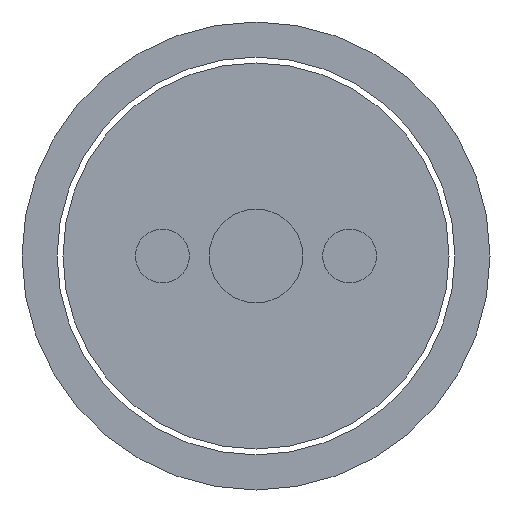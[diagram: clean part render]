
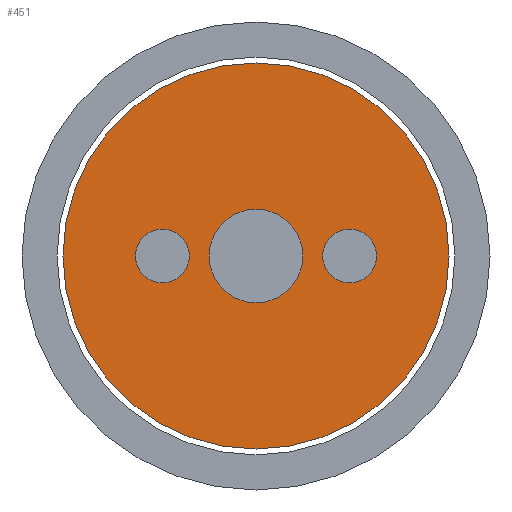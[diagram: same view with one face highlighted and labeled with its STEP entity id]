
A CAD part, front view. The second image highlights one B-rep face of the part: STEP entity #451.
In plain terms, the highlighted planar face has unit normal (0, -1, 0).
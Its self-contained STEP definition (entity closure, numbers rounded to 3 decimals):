
#366=CARTESIAN_POINT('',(0.,0.,0.));
#367=DIRECTION('',(0.,1.,0.));
#368=DIRECTION('',(1.,0.,0.));
#369=AXIS2_PLACEMENT_3D('',#366,#367,#368);
#371=CARTESIAN_POINT('',(0.,0.,0.));
#372=DIRECTION('',(0.,1.,0.));
#373=DIRECTION('',(-1.,0.,0.));
#374=AXIS2_PLACEMENT_3D('',#371,#372,#373);
#376=CARTESIAN_POINT('',(0.,0.,0.));
#377=DIRECTION('',(0.,-1.,0.));
#378=DIRECTION('',(1.,0.,0.));
#379=AXIS2_PLACEMENT_3D('',#376,#377,#378);
#381=CARTESIAN_POINT('',(0.,0.,0.));
#382=DIRECTION('',(0.,-1.,0.));
#383=DIRECTION('',(-1.,0.,0.));
#384=AXIS2_PLACEMENT_3D('',#381,#382,#383);
#386=CARTESIAN_POINT('',(4.,0.,0.));
#387=DIRECTION('',(0.,-1.,0.));
#388=DIRECTION('',(-1.,0.,0.));
#389=AXIS2_PLACEMENT_3D('',#386,#387,#388);
#391=CARTESIAN_POINT('',(4.,0.,0.));
#392=DIRECTION('',(0.,-1.,0.));
#393=DIRECTION('',(1.,0.,0.));
#394=AXIS2_PLACEMENT_3D('',#391,#392,#393);
#396=CARTESIAN_POINT('',(-4.,0.,0.));
#397=DIRECTION('',(0.,-1.,0.));
#398=DIRECTION('',(-1.,0.,0.));
#399=AXIS2_PLACEMENT_3D('',#396,#397,#398);
#401=CARTESIAN_POINT('',(-4.,0.,0.));
#402=DIRECTION('',(0.,-1.,0.));
#403=DIRECTION('',(1.,0.,0.));
#404=AXIS2_PLACEMENT_3D('',#401,#402,#403);
#406=CARTESIAN_POINT('',(8.25,0.,0.));
#407=CARTESIAN_POINT('',(-8.25,0.,0.));
#408=VERTEX_POINT('',#406);
#409=VERTEX_POINT('',#407);
#410=CARTESIAN_POINT('',(2.,0.,0.));
#411=CARTESIAN_POINT('',(-2.,0.,0.));
#412=VERTEX_POINT('',#410);
#413=VERTEX_POINT('',#411);
#414=CARTESIAN_POINT('',(2.85,0.,0.));
#415=CARTESIAN_POINT('',(5.15,0.,0.));
#416=VERTEX_POINT('',#414);
#417=VERTEX_POINT('',#415);
#418=CARTESIAN_POINT('',(-2.85,0.,0.));
#419=CARTESIAN_POINT('',(-5.15,0.,0.));
#420=VERTEX_POINT('',#418);
#421=VERTEX_POINT('',#419);
#422=CARTESIAN_POINT('',(0.,0.,0.));
#423=DIRECTION('',(0.,-1.,0.));
#424=DIRECTION('',(-1.,0.,0.));
#425=AXIS2_PLACEMENT_3D('',#422,#423,#424);
#426=PLANE('',#425);
#428=ORIENTED_EDGE('',*,*,#427,.T.);
#430=ORIENTED_EDGE('',*,*,#429,.T.);
#431=EDGE_LOOP('',(#428,#430));
#432=FACE_OUTER_BOUND('',#431,.F.);
#434=ORIENTED_EDGE('',*,*,#433,.T.);
#436=ORIENTED_EDGE('',*,*,#435,.T.);
#437=EDGE_LOOP('',(#434,#436));
#438=FACE_BOUND('',#437,.F.);
#440=ORIENTED_EDGE('',*,*,#439,.T.);
#442=ORIENTED_EDGE('',*,*,#441,.T.);
#443=EDGE_LOOP('',(#440,#442));
#444=FACE_BOUND('',#443,.F.);
#446=ORIENTED_EDGE('',*,*,#445,.T.);
#448=ORIENTED_EDGE('',*,*,#447,.T.);
#449=EDGE_LOOP('',(#446,#448));
#450=FACE_BOUND('',#449,.F.);
#451=ADVANCED_FACE('',(#432,#438,#444,#450),#426,.T.);
#370=CIRCLE('',#369,8.25);
#375=CIRCLE('',#374,8.25);
#380=CIRCLE('',#379,2.);
#385=CIRCLE('',#384,2.);
#390=CIRCLE('',#389,1.15);
#395=CIRCLE('',#394,1.15);
#400=CIRCLE('',#399,1.15);
#405=CIRCLE('',#404,1.15);
#427=EDGE_CURVE('',#408,#409,#370,.T.);
#429=EDGE_CURVE('',#409,#408,#375,.T.);
#433=EDGE_CURVE('',#412,#413,#380,.T.);
#435=EDGE_CURVE('',#413,#412,#385,.T.);
#439=EDGE_CURVE('',#416,#417,#390,.T.);
#441=EDGE_CURVE('',#417,#416,#395,.T.);
#445=EDGE_CURVE('',#421,#420,#400,.T.);
#447=EDGE_CURVE('',#420,#421,#405,.T.);
